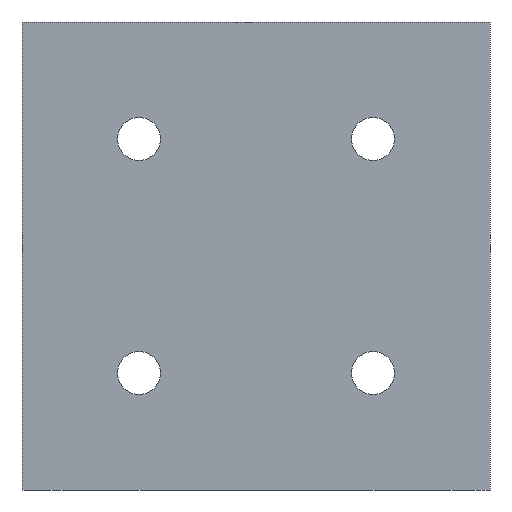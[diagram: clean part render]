
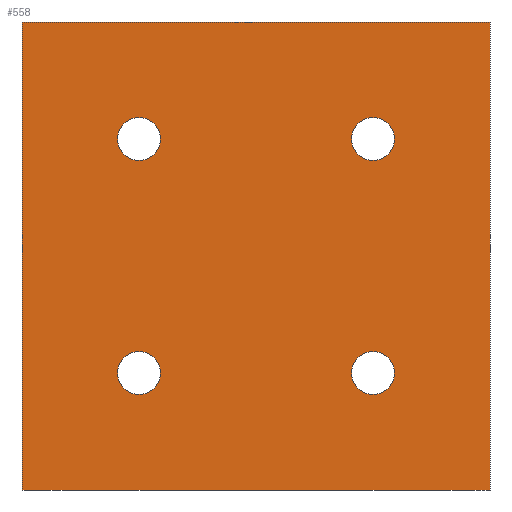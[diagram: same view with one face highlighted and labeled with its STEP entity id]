
A CAD part, front view. The second image highlights one B-rep face of the part: STEP entity #558.
In plain terms, the highlighted planar face has unit normal (0, -1, 0).
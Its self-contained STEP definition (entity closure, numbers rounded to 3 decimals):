
#6 = CARTESIAN_POINT ( 'NONE',  ( -30., 0., 50. ) ) ;
#12 = AXIS2_PLACEMENT_3D ( 'NONE', #1142, #483, #1034 ) ;
#24 = ORIENTED_EDGE ( 'NONE', *, *, #1050, .T. ) ;
#33 = VERTEX_POINT ( 'NONE', #933 ) ;
#35 = EDGE_CURVE ( 'NONE', #332, #1124, #457, .T. ) ;
#56 = VERTEX_POINT ( 'NONE', #1020 ) ;
#74 = AXIS2_PLACEMENT_3D ( 'NONE', #754, #287, #564 ) ;
#110 = CARTESIAN_POINT ( 'NONE',  ( 15., 0., 35. ) ) ;
#161 = ORIENTED_EDGE ( 'NONE', *, *, #912, .T. ) ;
#166 = ORIENTED_EDGE ( 'NONE', *, *, #1135, .T. ) ;
#170 = CARTESIAN_POINT ( 'NONE',  ( 15., 0., 5. ) ) ;
#177 = AXIS2_PLACEMENT_3D ( 'NONE', #680, #1070, #866 ) ;
#189 = CARTESIAN_POINT ( 'NONE',  ( -15., 0., 37.75 ) ) ;
#202 = FACE_BOUND ( 'NONE', #728, .T. ) ;
#205 = DIRECTION ( 'NONE',  ( 0., 1., 0. ) ) ;
#207 = CARTESIAN_POINT ( 'NONE',  ( -30., 0., -10. ) ) ;
#213 = CARTESIAN_POINT ( 'NONE',  ( -15., 0., 35. ) ) ;
#215 = VECTOR ( 'NONE', #751, 1000. ) ;
#219 = DIRECTION ( 'NONE',  ( 0., 0., -1. ) ) ;
#225 = CARTESIAN_POINT ( 'NONE',  ( 15., 0., 32.25 ) ) ;
#229 = LINE ( 'NONE', #685, #971 ) ;
#257 = CIRCLE ( 'NONE', #692, 2.75 ) ;
#258 = LINE ( 'NONE', #1013, #215 ) ;
#287 = DIRECTION ( 'NONE',  ( 0., 1., 0. ) ) ;
#290 = AXIS2_PLACEMENT_3D ( 'NONE', #213, #995, #1080 ) ;
#291 = DIRECTION ( 'NONE',  ( 0., 0., -1. ) ) ;
#310 = VECTOR ( 'NONE', #579, 1000. ) ;
#324 = ORIENTED_EDGE ( 'NONE', *, *, #694, .F. ) ;
#332 = VERTEX_POINT ( 'NONE', #1209 ) ;
#345 = CARTESIAN_POINT ( 'NONE',  ( 15., 0., 2.25 ) ) ;
#365 = VERTEX_POINT ( 'NONE', #637 ) ;
#372 = VERTEX_POINT ( 'NONE', #345 ) ;
#395 = FACE_BOUND ( 'NONE', #1022, .T. ) ;
#415 = ORIENTED_EDGE ( 'NONE', *, *, #656, .T. ) ;
#438 = CIRCLE ( 'NONE', #651, 2.75 ) ;
#457 = LINE ( 'NONE', #945, #1184 ) ;
#468 = DIRECTION ( 'NONE',  ( 1., 0., 0. ) ) ;
#474 = CIRCLE ( 'NONE', #12, 2.75 ) ;
#483 = DIRECTION ( 'NONE',  ( 0., 1., 0. ) ) ;
#494 = EDGE_CURVE ( 'NONE', #854, #33, #474, .T. ) ;
#499 = CARTESIAN_POINT ( 'NONE',  ( 15., 0., 7.75 ) ) ;
#522 = EDGE_CURVE ( 'NONE', #56, #768, #791, .T. ) ;
#535 = ORIENTED_EDGE ( 'NONE', *, *, #600, .T. ) ;
#547 = DIRECTION ( 'NONE',  ( 0., 0., -1. ) ) ;
#553 = CIRCLE ( 'NONE', #573, 2.75 ) ;
#557 = DIRECTION ( 'NONE',  ( 0., 1., 0. ) ) ;
#558 = ADVANCED_FACE ( 'NONE', ( #858, #395, #202, #681, #960 ), #1056, .T. ) ;
#564 = DIRECTION ( 'NONE',  ( 0., 0., -1. ) ) ;
#569 = VERTEX_POINT ( 'NONE', #499 ) ;
#571 = AXIS2_PLACEMENT_3D ( 'NONE', #917, #911, #621 ) ;
#573 = AXIS2_PLACEMENT_3D ( 'NONE', #170, #905, #547 ) ;
#577 = ORIENTED_EDGE ( 'NONE', *, *, #752, .T. ) ;
#579 = DIRECTION ( 'NONE',  ( 1., 0., 0. ) ) ;
#593 = DIRECTION ( 'NONE',  ( -1., 0., 0. ) ) ;
#600 = EDGE_CURVE ( 'NONE', #569, #372, #553, .T. ) ;
#612 = CARTESIAN_POINT ( 'NONE',  ( 30., 0., -10. ) ) ;
#621 = DIRECTION ( 'NONE',  ( 0., 0., -1. ) ) ;
#637 = CARTESIAN_POINT ( 'NONE',  ( -15., 0., 2.25 ) ) ;
#641 = EDGE_LOOP ( 'NONE', ( #1065, #577 ) ) ;
#651 = AXIS2_PLACEMENT_3D ( 'NONE', #696, #205, #219 ) ;
#656 = EDGE_CURVE ( 'NONE', #1124, #941, #258, .T. ) ;
#680 = CARTESIAN_POINT ( 'NONE',  ( -15., 0., 5. ) ) ;
#681 = FACE_BOUND ( 'NONE', #746, .T. ) ;
#685 = CARTESIAN_POINT ( 'NONE',  ( -30., 0., -10. ) ) ;
#692 = AXIS2_PLACEMENT_3D ( 'NONE', #110, #557, #291 ) ;
#694 = EDGE_CURVE ( 'NONE', #741, #941, #940, .T. ) ;
#696 = CARTESIAN_POINT ( 'NONE',  ( -15., 0., 5. ) ) ;
#704 = ORIENTED_EDGE ( 'NONE', *, *, #898, .T. ) ;
#728 = EDGE_LOOP ( 'NONE', ( #24, #535 ) ) ;
#741 = VERTEX_POINT ( 'NONE', #856 ) ;
#746 = EDGE_LOOP ( 'NONE', ( #704, #161 ) ) ;
#751 = DIRECTION ( 'NONE',  ( 0., 0., 1. ) ) ;
#752 = EDGE_CURVE ( 'NONE', #33, #854, #257, .T. ) ;
#754 = CARTESIAN_POINT ( 'NONE',  ( -15., 0., 35. ) ) ;
#768 = VERTEX_POINT ( 'NONE', #189 ) ;
#777 = CARTESIAN_POINT ( 'NONE',  ( -15., 0., 7.75 ) ) ;
#791 = CIRCLE ( 'NONE', #74, 2.75 ) ;
#826 = CIRCLE ( 'NONE', #290, 2.75 ) ;
#854 = VERTEX_POINT ( 'NONE', #225 ) ;
#856 = CARTESIAN_POINT ( 'NONE',  ( -30., 0., 50. ) ) ;
#857 = EDGE_CURVE ( 'NONE', #332, #741, #229, .T. ) ;
#858 = FACE_BOUND ( 'NONE', #641, .T. ) ;
#859 = VERTEX_POINT ( 'NONE', #777 ) ;
#866 = DIRECTION ( 'NONE',  ( 0., 0., -1. ) ) ;
#898 = EDGE_CURVE ( 'NONE', #365, #859, #1187, .T. ) ;
#905 = DIRECTION ( 'NONE',  ( 0., 1., 0. ) ) ;
#911 = DIRECTION ( 'NONE',  ( 0., 1., 0. ) ) ;
#912 = EDGE_CURVE ( 'NONE', #859, #365, #438, .T. ) ;
#917 = CARTESIAN_POINT ( 'NONE',  ( 15., 0., 5. ) ) ;
#929 = CIRCLE ( 'NONE', #571, 2.75 ) ;
#933 = CARTESIAN_POINT ( 'NONE',  ( 15., 0., 37.75 ) ) ;
#940 = LINE ( 'NONE', #6, #310 ) ;
#941 = VERTEX_POINT ( 'NONE', #1075 ) ;
#945 = CARTESIAN_POINT ( 'NONE',  ( -30., 0., -10. ) ) ;
#960 = FACE_OUTER_BOUND ( 'NONE', #1177, .T. ) ;
#971 = VECTOR ( 'NONE', #1060, 1000. ) ;
#995 = DIRECTION ( 'NONE',  ( 0., 1., 0. ) ) ;
#1008 = ORIENTED_EDGE ( 'NONE', *, *, #857, .F. ) ;
#1013 = CARTESIAN_POINT ( 'NONE',  ( 30., 0., -10. ) ) ;
#1020 = CARTESIAN_POINT ( 'NONE',  ( -15., 0., 32.25 ) ) ;
#1022 = EDGE_LOOP ( 'NONE', ( #1045, #166 ) ) ;
#1026 = AXIS2_PLACEMENT_3D ( 'NONE', #207, #1222, #593 ) ;
#1034 = DIRECTION ( 'NONE',  ( 0., 0., -1. ) ) ;
#1045 = ORIENTED_EDGE ( 'NONE', *, *, #522, .T. ) ;
#1050 = EDGE_CURVE ( 'NONE', #372, #569, #929, .T. ) ;
#1056 = PLANE ( 'NONE',  #1026 ) ;
#1060 = DIRECTION ( 'NONE',  ( 0., 0., 1. ) ) ;
#1065 = ORIENTED_EDGE ( 'NONE', *, *, #494, .T. ) ;
#1070 = DIRECTION ( 'NONE',  ( 0., 1., 0. ) ) ;
#1075 = CARTESIAN_POINT ( 'NONE',  ( 30., 0., 50. ) ) ;
#1080 = DIRECTION ( 'NONE',  ( 0., 0., -1. ) ) ;
#1124 = VERTEX_POINT ( 'NONE', #612 ) ;
#1135 = EDGE_CURVE ( 'NONE', #768, #56, #826, .T. ) ;
#1142 = CARTESIAN_POINT ( 'NONE',  ( 15., 0., 35. ) ) ;
#1177 = EDGE_LOOP ( 'NONE', ( #324, #1008, #1221, #415 ) ) ;
#1184 = VECTOR ( 'NONE', #468, 1000. ) ;
#1187 = CIRCLE ( 'NONE', #177, 2.75 ) ;
#1209 = CARTESIAN_POINT ( 'NONE',  ( -30., 0., -10. ) ) ;
#1221 = ORIENTED_EDGE ( 'NONE', *, *, #35, .T. ) ;
#1222 = DIRECTION ( 'NONE',  ( 0., -1., 0. ) ) ;
